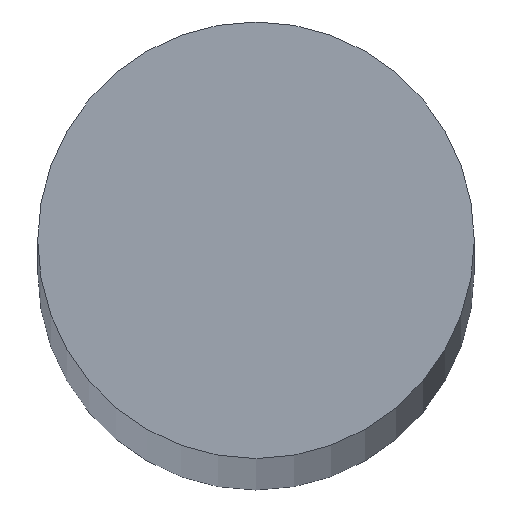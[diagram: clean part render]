
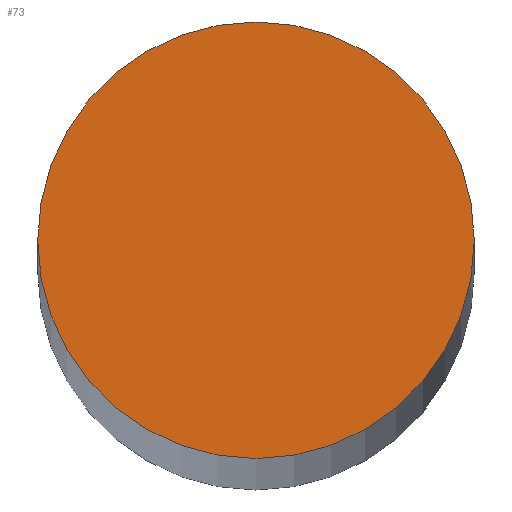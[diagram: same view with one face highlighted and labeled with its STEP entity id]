
A CAD part, top view. The second image highlights one B-rep face of the part: STEP entity #73.
In plain terms, the highlighted planar face has unit normal (0, 0, 1).
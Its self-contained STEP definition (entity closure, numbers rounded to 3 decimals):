
#4 = VERTEX_POINT ( 'NONE', #5 ) ;
#5 = CARTESIAN_POINT ( 'NONE',  ( 6., 0., 247.5 ) ) ;
#7 = VERTEX_POINT ( 'NONE', #12 ) ;
#12 = CARTESIAN_POINT ( 'NONE',  ( -6., 0., 247.5 ) ) ;
#26 = CARTESIAN_POINT ( 'NONE',  ( 0., 0., 247.5 ) ) ;
#27 = PLANE ( 'NONE',  #122 ) ;
#28 = DIRECTION ( 'NONE',  ( 0., 0., 1. ) ) ;
#29 = DIRECTION ( 'NONE',  ( 1., 0., 0. ) ) ;
#36 = CARTESIAN_POINT ( 'NONE',  ( 0., 0., 247.5 ) ) ;
#37 = DIRECTION ( 'NONE',  ( 0., 0., 1. ) ) ;
#38 = DIRECTION ( 'NONE',  ( 1., 0., 0. ) ) ;
#43 = CARTESIAN_POINT ( 'NONE',  ( 0., 0., 247.5 ) ) ;
#44 = DIRECTION ( 'NONE',  ( 0., 0., 1. ) ) ;
#45 = DIRECTION ( 'NONE',  ( 1., 0., 0. ) ) ;
#73 = ADVANCED_FACE ( 'NONE', ( #102 ), #27, .T. ) ;
#75 = EDGE_LOOP ( 'NONE', ( #84, #89 ) ) ;
#84 = ORIENTED_EDGE ( 'NONE', *, *, #134, .T. ) ;
#89 = ORIENTED_EDGE ( 'NONE', *, *, #123, .T. ) ;
#102 = FACE_OUTER_BOUND ( 'NONE', #75, .T. ) ;
#106 = CIRCLE ( 'NONE', #137, 6. ) ;
#110 = CIRCLE ( 'NONE', #131, 6. ) ;
#122 = AXIS2_PLACEMENT_3D ( 'NONE', #26, #28, #29 ) ;
#123 = EDGE_CURVE ( 'NONE', #4, #7, #106, .T. ) ;
#131 = AXIS2_PLACEMENT_3D ( 'NONE', #43, #44, #45 ) ;
#134 = EDGE_CURVE ( 'NONE', #7, #4, #110, .T. ) ;
#137 = AXIS2_PLACEMENT_3D ( 'NONE', #36, #37, #38 ) ;
